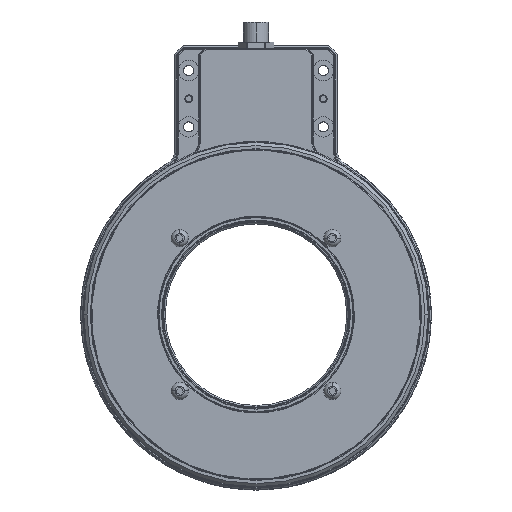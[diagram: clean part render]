
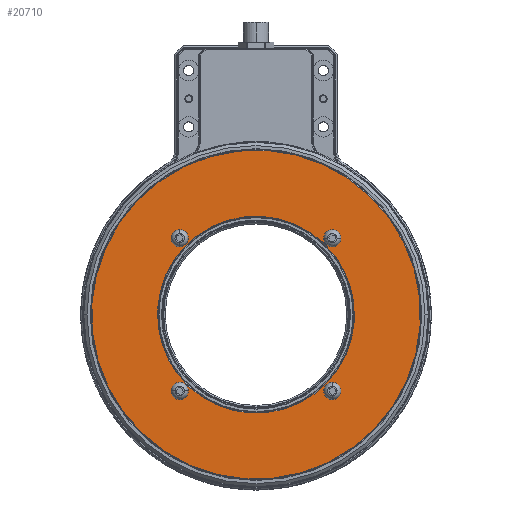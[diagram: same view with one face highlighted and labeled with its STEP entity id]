
A CAD part, top view. The second image highlights one B-rep face of the part: STEP entity #20710.
In plain terms, the highlighted planar face has unit normal (0, 0, 1).
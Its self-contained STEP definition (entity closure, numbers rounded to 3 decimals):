
#862 = CIRCLE ( 'NONE', #962, 1.7 ) ;
#863 = CARTESIAN_POINT ( 'NONE',  ( -26.819, -36.032, 13.685 ) ) ;
#955 = CARTESIAN_POINT ( 'NONE',  ( -25.169, -36.44, 13.685 ) ) ;
#957 = DIRECTION ( 'NONE',  ( 0.971, -0.24, 0. ) ) ;
#960 = DIRECTION ( 'NONE',  ( 0., 0., 1. ) ) ;
#962 = AXIS2_PLACEMENT_3D ( 'NONE', #863, #960, #957 ) ;
#1106 = CARTESIAN_POINT ( 'NONE',  ( 23.622, 12.351, 13.685 ) ) ;
#1107 = DIRECTION ( 'NONE',  ( 0.971, -0.24, 0. ) ) ;
#1109 = DIRECTION ( 'NONE',  ( 0., 0., 1. ) ) ;
#1110 = CARTESIAN_POINT ( 'NONE',  ( 21.971, 12.758, 13.685 ) ) ;
#1111 = AXIS2_PLACEMENT_3D ( 'NONE', #1110, #1109, #1107 ) ;
#1115 = CIRCLE ( 'NONE', #1111, 1.7 ) ;
#1118 = CARTESIAN_POINT ( 'NONE',  ( 20.321, 13.165, 13.685 ) ) ;
#17618 = CARTESIAN_POINT ( 'NONE',  ( 28.11, -19.173, 13.685 ) ) ;
#17719 = VERTEX_POINT ( 'NONE', #17618 ) ;
#17827 = EDGE_CURVE ( 'NONE', #17918, #17828, #862, .T. ) ;
#17828 = VERTEX_POINT ( 'NONE', #955 ) ;
#17857 = VERTEX_POINT ( 'NONE', #1118 ) ;
#17859 = EDGE_CURVE ( 'NONE', #17857, #17860, #1115, .T. ) ;
#17860 = VERTEX_POINT ( 'NONE', #1106 ) ;
#17877 = ORIENTED_EDGE ( 'NONE', *, *, #17988, .T. ) ;
#17883 = VERTEX_POINT ( 'NONE', #18077 ) ;
#17885 = EDGE_CURVE ( 'NONE', #17883, #17886, #18076, .T. ) ;
#17886 = VERTEX_POINT ( 'NONE', #18071 ) ;
#17892 = EDGE_CURVE ( 'NONE', #17893, #17894, #18105, .T. ) ;
#17893 = VERTEX_POINT ( 'NONE', #18096 ) ;
#17894 = VERTEX_POINT ( 'NONE', #18095 ) ;
#17896 = VERTEX_POINT ( 'NONE', #18090 ) ;
#17898 = EDGE_CURVE ( 'NONE', #17896, #17899, #18140, .T. ) ;
#17899 = VERTEX_POINT ( 'NONE', #18135 ) ;
#17906 = ORIENTED_EDGE ( 'NONE', *, *, #17859, .F. ) ;
#17907 = EDGE_LOOP ( 'NONE', ( #17908, #17911 ) ) ;
#17908 = ORIENTED_EDGE ( 'NONE', *, *, #17909, .F. ) ;
#17909 = EDGE_CURVE ( 'NONE', #17886, #17883, #18162, .T. ) ;
#17911 = ORIENTED_EDGE ( 'NONE', *, *, #17885, .F. ) ;
#17913 = EDGE_LOOP ( 'NONE', ( #17877, #18015 ) ) ;
#17918 = VERTEX_POINT ( 'NONE', #18188 ) ;
#17988 = EDGE_CURVE ( 'NONE', #17719, #17990, #18362, .T. ) ;
#17990 = VERTEX_POINT ( 'NONE', #18417 ) ;
#17998 = EDGE_CURVE ( 'NONE', #17899, #17896, #18406, .T. ) ;
#18000 = ORIENTED_EDGE ( 'NONE', *, *, #17898, .F. ) ;
#18002 = EDGE_LOOP ( 'NONE', ( #18005, #17906 ) ) ;
#18005 = ORIENTED_EDGE ( 'NONE', *, *, #18006, .F. ) ;
#18006 = EDGE_CURVE ( 'NONE', #17860, #17857, #18442, .T. ) ;
#18015 = ORIENTED_EDGE ( 'NONE', *, *, #18017, .T. ) ;
#18017 = EDGE_CURVE ( 'NONE', #17990, #17719, #18454, .T. ) ;
#18019 = EDGE_LOOP ( 'NONE', ( #18021, #20670 ) ) ;
#18021 = ORIENTED_EDGE ( 'NONE', *, *, #18023, .T. ) ;
#18023 = EDGE_CURVE ( 'NONE', #17894, #17893, #18520, .T. ) ;
#18071 = CARTESIAN_POINT ( 'NONE',  ( -25.169, 12.351, 13.685 ) ) ;
#18072 = DIRECTION ( 'NONE',  ( 0.971, -0.24, 0. ) ) ;
#18073 = DIRECTION ( 'NONE',  ( 0., 0., 1. ) ) ;
#18074 = CARTESIAN_POINT ( 'NONE',  ( -26.819, 12.758, 13.685 ) ) ;
#18075 = AXIS2_PLACEMENT_3D ( 'NONE', #18074, #18073, #18072 ) ;
#18076 = CIRCLE ( 'NONE', #18075, 1.7 ) ;
#18077 = CARTESIAN_POINT ( 'NONE',  ( -28.47, 13.165, 13.685 ) ) ;
#18090 = CARTESIAN_POINT ( 'NONE',  ( 20.321, -35.625, 13.685 ) ) ;
#18095 = CARTESIAN_POINT ( 'NONE',  ( -53.443, 0.955, 13.685 ) ) ;
#18096 = CARTESIAN_POINT ( 'NONE',  ( 48.595, -24.229, 13.685 ) ) ;
#18097 = DIRECTION ( 'NONE',  ( 0.971, -0.24, 0. ) ) ;
#18098 = DIRECTION ( 'NONE',  ( 0., 0., 1. ) ) ;
#18099 = CARTESIAN_POINT ( 'NONE',  ( -2.424, -11.637, 13.685 ) ) ;
#18100 = AXIS2_PLACEMENT_3D ( 'NONE', #18099, #18098, #18097 ) ;
#18105 = CIRCLE ( 'NONE', #18100, 52.55 ) ;
#18135 = CARTESIAN_POINT ( 'NONE',  ( 23.622, -36.44, 13.685 ) ) ;
#18136 = DIRECTION ( 'NONE',  ( 0.971, -0.24, 0. ) ) ;
#18137 = DIRECTION ( 'NONE',  ( 0., 0., 1. ) ) ;
#18138 = CARTESIAN_POINT ( 'NONE',  ( 21.971, -36.032, 13.685 ) ) ;
#18139 = AXIS2_PLACEMENT_3D ( 'NONE', #18138, #18137, #18136 ) ;
#18140 = CIRCLE ( 'NONE', #18139, 1.7 ) ;
#18158 = DIRECTION ( 'NONE',  ( 0.971, -0.24, 0. ) ) ;
#18159 = DIRECTION ( 'NONE',  ( 0., 0., 1. ) ) ;
#18160 = CARTESIAN_POINT ( 'NONE',  ( -26.819, 12.758, 13.685 ) ) ;
#18161 = AXIS2_PLACEMENT_3D ( 'NONE', #18160, #18159, #18158 ) ;
#18162 = CIRCLE ( 'NONE', #18161, 1.7 ) ;
#18188 = CARTESIAN_POINT ( 'NONE',  ( -28.47, -35.625, 13.685 ) ) ;
#18362 = CIRCLE ( 'NONE', #18425, 31.45 ) ;
#18402 = DIRECTION ( 'NONE',  ( 0.971, -0.24, 0. ) ) ;
#18403 = DIRECTION ( 'NONE',  ( 0., 0., 1. ) ) ;
#18404 = CARTESIAN_POINT ( 'NONE',  ( 21.971, -36.032, 13.685 ) ) ;
#18405 = AXIS2_PLACEMENT_3D ( 'NONE', #18404, #18403, #18402 ) ;
#18406 = CIRCLE ( 'NONE', #18405, 1.7 ) ;
#18417 = CARTESIAN_POINT ( 'NONE',  ( -32.958, -4.101, 13.685 ) ) ;
#18422 = DIRECTION ( 'NONE',  ( 0.971, -0.24, 0. ) ) ;
#18423 = DIRECTION ( 'NONE',  ( 0., 0., -1. ) ) ;
#18424 = CARTESIAN_POINT ( 'NONE',  ( -2.424, -11.637, 13.685 ) ) ;
#18425 = AXIS2_PLACEMENT_3D ( 'NONE', #18424, #18423, #18422 ) ;
#18434 = DIRECTION ( 'NONE',  ( 0.971, -0.24, 0. ) ) ;
#18435 = DIRECTION ( 'NONE',  ( 0., 0., 1. ) ) ;
#18436 = CARTESIAN_POINT ( 'NONE',  ( 21.971, 12.758, 13.685 ) ) ;
#18437 = AXIS2_PLACEMENT_3D ( 'NONE', #18436, #18435, #18434 ) ;
#18442 = CIRCLE ( 'NONE', #18437, 1.7 ) ;
#18450 = DIRECTION ( 'NONE',  ( 0.971, -0.24, 0. ) ) ;
#18451 = DIRECTION ( 'NONE',  ( 0., 0., -1. ) ) ;
#18452 = CARTESIAN_POINT ( 'NONE',  ( -2.424, -11.637, 13.685 ) ) ;
#18453 = AXIS2_PLACEMENT_3D ( 'NONE', #18452, #18451, #18450 ) ;
#18454 = CIRCLE ( 'NONE', #18453, 31.45 ) ;
#18516 = DIRECTION ( 'NONE',  ( 0.971, -0.24, 0. ) ) ;
#18517 = DIRECTION ( 'NONE',  ( 0., 0., 1. ) ) ;
#18518 = CARTESIAN_POINT ( 'NONE',  ( -2.424, -11.637, 13.685 ) ) ;
#18519 = AXIS2_PLACEMENT_3D ( 'NONE', #18518, #18517, #18516 ) ;
#18520 = CIRCLE ( 'NONE', #18519, 52.55 ) ;
#20586 = EDGE_LOOP ( 'NONE', ( #20590, #18000 ) ) ;
#20590 = ORIENTED_EDGE ( 'NONE', *, *, #17998, .F. ) ;
#20670 = ORIENTED_EDGE ( 'NONE', *, *, #17892, .T. ) ;
#20710 = ADVANCED_FACE ( 'NONE', ( #30594, #30593, #30592, #30591, #30590, #30589 ), #30630, .T. ) ;
#20712 = EDGE_LOOP ( 'NONE', ( #20714, #20717 ) ) ;
#20714 = ORIENTED_EDGE ( 'NONE', *, *, #20715, .F. ) ;
#20715 = EDGE_CURVE ( 'NONE', #17828, #17918, #30620, .T. ) ;
#20717 = ORIENTED_EDGE ( 'NONE', *, *, #17827, .F. ) ;
#30589 = FACE_OUTER_BOUND ( 'NONE', #18019, .T. ) ;
#30590 = FACE_BOUND ( 'NONE', #17913, .T. ) ;
#30591 = FACE_BOUND ( 'NONE', #17907, .T. ) ;
#30592 = FACE_BOUND ( 'NONE', #18002, .T. ) ;
#30593 = FACE_BOUND ( 'NONE', #20586, .T. ) ;
#30594 = FACE_BOUND ( 'NONE', #20712, .T. ) ;
#30616 = DIRECTION ( 'NONE',  ( 0.971, -0.24, 0. ) ) ;
#30617 = DIRECTION ( 'NONE',  ( 0., 0., 1. ) ) ;
#30618 = CARTESIAN_POINT ( 'NONE',  ( -26.819, -36.032, 13.685 ) ) ;
#30619 = AXIS2_PLACEMENT_3D ( 'NONE', #30618, #30617, #30616 ) ;
#30620 = CIRCLE ( 'NONE', #30619, 1.7 ) ;
#30625 = DIRECTION ( 'NONE',  ( 0.971, -0.24, 0. ) ) ;
#30626 = DIRECTION ( 'NONE',  ( 0., 0., 1. ) ) ;
#30627 = CARTESIAN_POINT ( 'NONE',  ( -2.424, -11.637, 13.685 ) ) ;
#30628 = AXIS2_PLACEMENT_3D ( 'NONE', #30627, #30626, #30625 ) ;
#30630 = PLANE ( 'NONE',  #30628 ) ;
